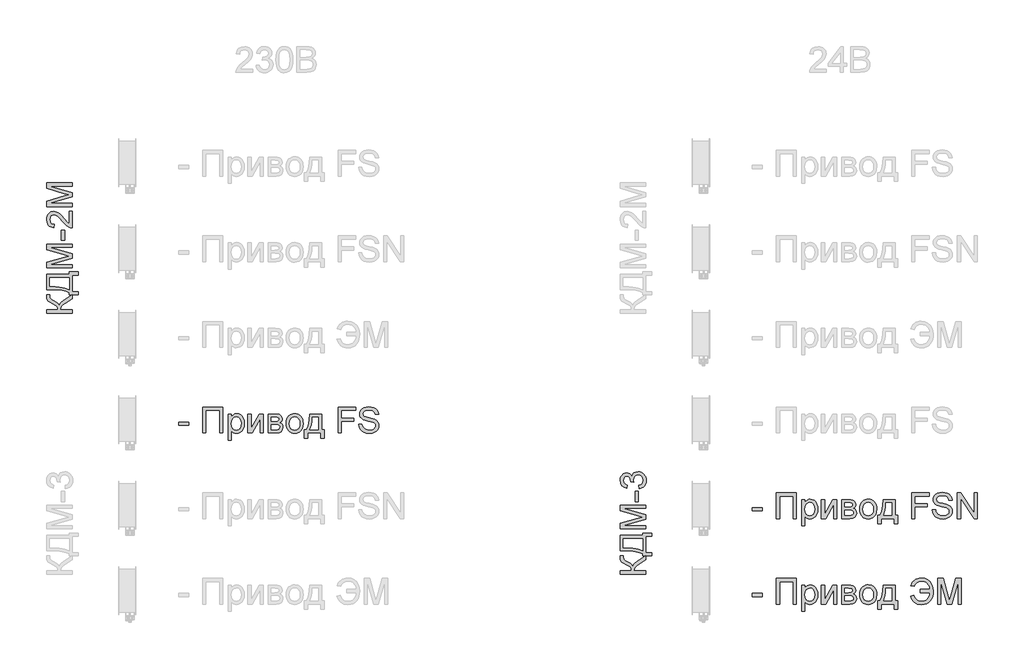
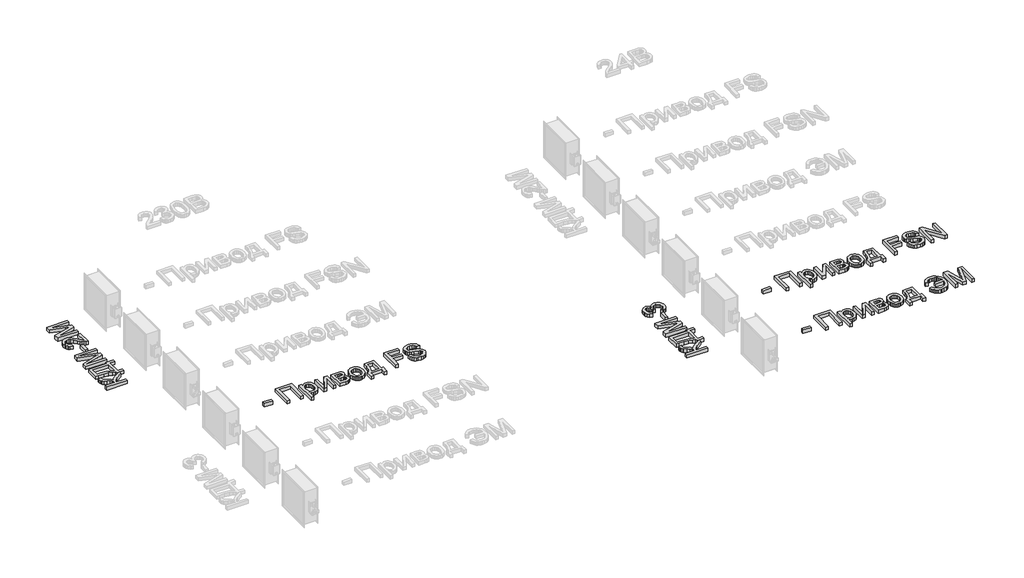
# One storey, part 10 of 23: 5 proxies.
"""IFC4 building model written with IfcOpenShell, lengths in millimetres."""

import ifcopenshell
import ifcopenshell.guid

model = None  # the IFC model being written
_history = None  # IfcOwnerHistory: only IFC2X3 demands one
_inside = {}  # id of a spatial element -> (the spatial element, [elements in it])
_under = {}  # id of a project, library or spatial element -> (it, [spatial elements below it])
_declared = {}  # id of a project -> (the project, [libraries it declares])
_typed = {}  # id of a type object -> (the type object, [elements of that type])
_made_of = {}  # id of a material, layer set ... -> (it, [elements and type objects made of it])


def new_model(schema):
    """Start an empty IFC model of exactly this schema.

    Asked for "IFC4X3", IfcOpenShell would pick the latest addendum, in which some entities
    have other attributes; the version numbers below select the first issue.
    IFC2X3 requires an IfcOwnerHistory on every rooted entity: one is made here for all.
    """
    global model, _history
    if schema == "IFC4X3":
        model = ifcopenshell.file(schema_version=(4, 3, 0, 0))
    else:
        model = ifcopenshell.file(schema=schema)
    _inside.clear()
    _under.clear()
    _declared.clear()
    _typed.clear()
    _made_of.clear()
    _history = None
    if model.schema == "IFC2X3":
        org = make("IfcOrganization", Name="unknown")
        user = make(
            "IfcPersonAndOrganization",
            ThePerson=make("IfcPerson", FamilyName="unknown"),
            TheOrganization=org,
        )
        app = make(
            "IfcApplication",
            ApplicationDeveloper=org,
            Version="unknown",
            ApplicationFullName="unknown",
            ApplicationIdentifier="unknown",
        )
        _history = make(
            "IfcOwnerHistory",
            OwningUser=user,
            OwningApplication=app,
            ChangeAction="ADDED",
            CreationDate=0,
        )
    return model


def make(cls, **values):
    """One entity of the class cls with the attributes given. An attribute that is None is left unset."""
    return model.create_entity(
        cls, **{name: value for name, value in values.items() if value is not None}
    )


def rooted(cls, **values):
    """An entity with a GlobalId (a new one), such as an element, a storey or a relation."""
    return make(cls, GlobalId=ifcopenshell.guid.new(), OwnerHistory=_history, **values)


def si_unit(unit_type, name, prefix=None):
    """IfcSIUnit, for example si_unit("LENGTHUNIT", "METRE", prefix="MILLI")."""
    return make("IfcSIUnit", UnitType=unit_type, Prefix=prefix, Name=name)


def assignment(units):
    """IfcUnitAssignment: the units of a project."""
    return None if units is None else make("IfcUnitAssignment", Units=units)


def point(xyz):
    """IfcCartesianPoint."""
    return None if xyz is None else make("IfcCartesianPoint", Coordinates=xyz)


def direction(xyz):
    """IfcDirection."""
    return None if xyz is None else make("IfcDirection", DirectionRatios=xyz)


def frame(location, z_axis=None, x_axis=None):
    """IfcAxis2Placement3D, a coordinate frame: its origin and axes. An axis left out is left unset."""
    return make(
        "IfcAxis2Placement3D",
        Location=point(location),
        Axis=direction(z_axis),
        RefDirection=direction(x_axis),
    )


def origin():
    """The frame at (0, 0, 0) with its axes left unset."""
    return frame((0.0, 0.0, 0.0))


def origin_with_axes():
    """The frame at (0, 0, 0) with the z axis (0, 0, 1) and the x axis (1, 0, 0) written out."""
    return frame((0.0, 0.0, 0.0), z_axis=(0.0, 0.0, 1.0), x_axis=(1.0, 0.0, 0.0))


def place(relative_to, where):
    """IfcLocalPlacement: puts the frame where relative to a parent placement (None: the world)."""
    return make(
        "IfcLocalPlacement", PlacementRelTo=relative_to, RelativePlacement=where
    )


def context(
    kind, dimensions, precision=None, world=None, true_north=None, identifier=None
):
    """IfcGeometricRepresentationContext, for example the 3D "Model" context."""
    return make(
        "IfcGeometricRepresentationContext",
        ContextIdentifier=identifier,
        ContextType=kind,
        CoordinateSpaceDimension=dimensions,
        Precision=precision,
        WorldCoordinateSystem=world,
        TrueNorth=true_north,
    )


def project(units=None, contexts=None):
    """IfcProject with its units and contexts."""
    return rooted(
        "IfcProject",
        Name="project",
        RepresentationContexts=contexts,
        UnitsInContext=assignment(units),
    )


def spatial(cls, under=None, at=None, **own):
    """A site, building, storey or space (cls), placed at a placement, below another one or the project."""
    s = rooted(cls, ObjectPlacement=at, **own)
    if under is not None:
        _under.setdefault(under.id(), (under, []))[1].append(s)
    return s


def polyline(points):
    """IfcPolyline through the points."""
    return make("IfcPolyline", Points=[point(p) for p in points])


def outline(outer, holes=None, kind="AREA"):
    """IfcArbitraryClosedProfileDef: a profile drawn as a closed curve; with holes, ...WithVoids."""
    if holes is None:
        return make("IfcArbitraryClosedProfileDef", ProfileType=kind, OuterCurve=outer)
    return make(
        "IfcArbitraryProfileDefWithVoids",
        ProfileType=kind,
        OuterCurve=outer,
        InnerCurves=holes,
    )


def extrude(swept, where, along, depth):
    """IfcExtrudedAreaSolid: the profile swept, set in the frame where, extruded along a direction by depth."""
    return make(
        "IfcExtrudedAreaSolid",
        SweptArea=swept,
        Position=where,
        ExtrudedDirection=direction(along),
        Depth=depth,
    )


def shape(context_of_items, identifier, shape_type, items):
    """IfcShapeRepresentation: the items that make up one representation, for example the "Body"."""
    return make(
        "IfcShapeRepresentation",
        ContextOfItems=context_of_items,
        RepresentationIdentifier=identifier,
        RepresentationType=shape_type,
        Items=items,
    )


def made_of(thing, what):
    """Note that an element or type object is made of a material, layer set ...; save() writes the relation."""
    if what is not None:
        _made_of.setdefault(what.id(), (what, []))[1].append(thing)
    return thing


def element(
    cls,
    number,
    at=None,
    inside=None,
    cuts=None,
    type_object=None,
    material=None,
    context=None,
    identifier="Body",
    shape_type=None,
    held_by="IfcProductDefinitionShape",
    body=None,
    shapes=None,
    **own,
):
    """One element of the class cls, such as IfcWall. Its Tag is "e" and its number.

    at: its placement. inside: the storey or other place that contains it. cuts: it is an
    opening in that element (IfcRelVoidsElement). A single representation is given by context,
    identifier, shape_type and body (its items); several are given by shapes. held_by: the class
    of the entity that holds the representations. save() writes the other relations.
    """
    e = rooted(cls, Tag="e%d" % number, ObjectPlacement=at, **own)
    if body is not None:
        shapes = [shape(context, identifier, shape_type, body)]
    if shapes is not None:
        e.Representation = make(held_by, Representations=shapes)
    if inside is not None:
        _inside.setdefault(inside.id(), (inside, []))[1].append(e)
    if cuts is not None:
        rooted(
            "IfcRelVoidsElement", RelatingBuildingElement=cuts, RelatedOpeningElement=e
        )
    if type_object is not None:
        _typed.setdefault(type_object.id(), (type_object, []))[1].append(e)
    return made_of(e, material)


def aggregate(whole, parts):
    """IfcRelAggregates: a whole, such as a stair, and the parts it consists of."""
    return rooted("IfcRelAggregates", RelatingObject=whole, RelatedObjects=parts)


def save(model, path):
    """Write the relations noted so far, then the file.

    IfcRelAggregates (storeys below a building ...), IfcRelContainedInSpatialStructure (elements
    in a storey), IfcRelDefinesByType, IfcRelAssociatesMaterial and IfcRelDeclares: one each for
    every whole, place, type object, material and project.
    """
    for whole, parts in _under.values():
        aggregate(whole, parts)
    for where, things in _inside.values():
        rooted(
            "IfcRelContainedInSpatialStructure",
            RelatedElements=things,
            RelatingStructure=where,
        )
    for kind, things in _typed.values():
        rooted("IfcRelDefinesByType", RelatedObjects=things, RelatingType=kind)
    for what, things in _made_of.values():
        rooted("IfcRelAssociatesMaterial", RelatedObjects=things, RelatingMaterial=what)
    for by, libraries in _declared.values():
        rooted("IfcRelDeclares", RelatingContext=by, RelatedDefinitions=libraries)
    model.write(path)


model = new_model("IFC4")

# Units and contexts
model_context = context("Model", 3, world=origin())
ifc_project = project(units=[si_unit("LENGTHUNIT", "METRE", prefix="MILLI")], contexts=[model_context])

# Site, building, storey
site = spatial("IfcSite", under=ifc_project)
building = spatial("IfcBuilding", under=site)
storey = spatial("IfcBuildingStorey", under=building, Name="Этаж 01", Elevation=0.0)

# Proxies
placement = place(None, origin())
element("IfcBuildingElementProxy", 1, Name="300 мм Arial", ObjectType="300 мм Arial", at=placement, inside=storey, context=model_context, shape_type="SweptSolid", body=[
    extrude(outline(polyline([(2804.7738082, -7434.3206311), (2804.7738082, -7396.6495148), (2922.4960467, -7396.6495148), (2922.4960467, -7434.3206311), (2804.7738082, -7434.3206311)])), origin_with_axes(), (0.0, 0.0, 1.0), 50.0),
    extrude(outline(polyline([(3087.3071805, -7222.4206019), (3322.7516574, -7222.4206019), (3322.7516574, -7523.7895324), (3285.0805411, -7523.7895324), (3285.0805411, -7260.0917182), (3124.9782968, -7260.0917182), (3124.9782968, -7523.7895324), (3087.3071805, -7523.7895324), (3087.3071805, -7222.4206019)])), origin_with_axes(), (0.0, 0.0, 1.0), 50.0),
    extrude(outline(polyline([(3383.9672214, -7608.5495441), (3383.9672214, -7302.4717241), (3421.6383378, -7302.4717241), (3421.6383378, -7339.4070764), (3433.9255964, -7321.1877206), (3447.684383, -7308.173895), (3463.724038, -7300.3655996), (3482.8539017, -7297.7628345), (3508.3297299, -7301.4048663), (3530.6049847, -7312.3309615), (3548.7415671, -7329.8789327), (3561.8013779, -7353.3865922), (3569.6924467, -7381.1432887), (3572.322803, -7411.438371), (3569.3521559, -7443.6556368), (3560.4402145, -7472.469994), (3545.8720875, -7496.4191119), (3525.9328834, -7514.0406595), (3502.7103324, -7524.8839813), (3478.292165, -7528.4984219), (3460.9741201, -7526.0795978), (3445.5138792, -7518.8231254), (3432.2793245, -7507.869439), (3421.6383378, -7494.3589728), (3421.6383378, -7608.5495441), (3383.9672214, -7608.5495441)]), holes=[polyline([(3421.6383378, -7414.8964618), (3425.7126308, -7448.668029), (3437.9355101, -7472.286053), (3455.970925, -7486.1919925), (3477.4828246, -7490.8273056), (3499.3442122, -7486.0264456), (3517.8394795, -7471.6238655), (3530.4486349, -7447.1413187), (3534.6516867, -7412.1005586), (3530.5498024, -7378.5129325), (3518.2441497, -7354.5638146), (3500.236326, -7340.2164168), (3479.027929, -7335.4339508), (3457.7367585, -7340.5199194), (3439.0391561, -7355.7778252), (3425.9885423, -7380.7294215), (3421.6383378, -7414.8964618)])]), origin_with_axes(), (0.0, 0.0, 1.0), 50.0),
    extrude(outline(polyline([(3614.7028088, -7302.4717241), (3652.3739251, -7302.4717241), (3652.3739251, -7471.2559835), (3744.9330351, -7302.4717241), (3793.6406113, -7302.4717241), (3793.6406113, -7523.7895324), (3755.969495, -7523.7895324), (3755.969495, -7356.0353426), (3663.9989962, -7523.7895324), (3614.7028088, -7523.7895324), (3614.7028088, -7302.4717241)])), origin_with_axes(), (0.0, 0.0, 1.0), 50.0),
    extrude(outline(polyline([(3850.1472857, -7302.4717241), (3933.1414638, -7302.4717241), (3959.8221055, -7303.7317199), (3978.6484666, -7307.5117074), (3992.4992238, -7314.6486181), (4004.2530535, -7325.9793836), (4012.2820781, -7340.7406486), (4014.9584196, -7358.1690581), (4013.3397388, -7372.2129533), (4008.4836965, -7384.325468), (4000.3718985, -7394.5617845), (3988.9859507, -7402.9770852), (4002.9286783, -7410.8037746), (4014.296232, -7423.3945359), (4021.856207, -7439.7560876), (4024.3761986, -7458.8951484), (4017.993446, -7487.6083381), (4002.8183137, -7507.8234538), (3978.7956194, -7519.7980127), (3945.8701809, -7523.7895324), (3850.1472857, -7523.7895324), (3850.1472857, -7302.4717241)]), holes=[polyline([(3887.818402, -7486.1184161), (3934.0243806, -7486.1184161), (3959.2059032, -7484.4169618), (3975.0064349, -7479.3125992), (3983.4861149, -7470.0327758), (3986.7050823, -7455.8049397), (3985.0955986, -7446.3779635), (3980.2671474, -7437.6683573), (3972.8543252, -7430.8533433), (3963.4917284, -7427.110144), (3930.3455607, -7424.9028521), (3887.818402, -7424.9028521), (3887.818402, -7486.1184161)]), polyline([(3887.818402, -7387.2317358), (3925.04806, -7387.2317358), (3955.7662065, -7385.3187494), (3970.7022156, -7377.6668039), (3975.6410313, -7371.3392336), (3977.2873033, -7363.8344409), (3974.3994296, -7352.5956459), (3965.7358086, -7345.3667647), (3950.0824297, -7341.4488215), (3926.2252823, -7340.1428404), (3887.818402, -7340.1428404), (3887.818402, -7387.2317358)])]), origin_with_axes(), (0.0, 0.0, 1.0), 50.0),
    extrude(outline(polyline([(4062.047315, -7413.1306282), (4064.0844615, -7384.4680223), (4070.1959011, -7359.7693448), (4080.3816339, -7339.0345959), (4094.6416597, -7322.2637754), (4108.9982546, -7311.5446138), (4124.8447715, -7303.8880698), (4142.1812106, -7299.2941433), (4161.0075717, -7297.7628345), (4181.7906051, -7299.6275364), (4200.5824773, -7305.221642), (4217.3831882, -7314.5451513), (4232.1927377, -7327.5980643), (4244.2799605, -7343.9389227), (4252.9136911, -7363.126268), (4258.0939294, -7385.1601003), (4259.8206756, -7410.0404195), (4256.767255, -7448.0978119), (4247.6069933, -7477.068519), (4232.606605, -7498.7643596), (4212.0328044, -7514.9971527), (4187.5962429, -7525.1231046), (4161.0075717, -7528.4984219), (4139.9210355, -7526.6406178), (4120.9544194, -7521.0672056), (4104.1077233, -7511.7781852), (4089.3809472, -7498.7735567), (4077.4224831, -7482.2740492), (4068.880723, -7462.500392), (4063.755667, -7439.452585), (4062.047315, -7413.1306282)]), holes=[polyline([(4099.7184313, -7413.0570518), (4104.0778329, -7447.1505157), (4117.1560378, -7471.4399245), (4136.8377246, -7485.9804603), (4161.0075717, -7490.8273056), (4185.0670541, -7485.9528692), (4204.7119527, -7471.3295599), (4217.7901576, -7446.7182544), (4222.1495593, -7411.8798294), (4217.7625665, -7378.7796469), (4204.6015881, -7354.821332), (4184.9290984, -7340.2807961), (4161.0075717, -7335.4339508), (4136.8377246, -7340.262402), (4117.1560378, -7354.7477556), (4104.0778329, -7378.981982), (4099.7184313, -7413.0570518)])]), origin_with_axes(), (0.0, 0.0, 1.0), 50.0),
    extrude(outline(polyline([(4335.1629082, -7302.4717241), (4476.4295943, -7302.4717241), (4476.4295943, -7486.1184161), (4504.6829316, -7486.1184161), (4504.6829316, -7585.0050964), (4467.0118152, -7585.0050964), (4467.0118152, -7523.7895324), (4311.6184605, -7523.7895324), (4311.6184605, -7585.0050964), (4273.9473442, -7585.0050964), (4273.9473442, -7486.1184161), (4297.4917919, -7486.1184161), (4314.6075017, -7455.1887373), (4326.5912577, -7414.2710624), (4333.4430598, -7363.3653913), (4335.1629082, -7302.4717241)]), holes=[polyline([(4368.1251349, -7340.1428404), (4365.0349262, -7386.2660455), (4359.2959671, -7425.9697099), (4350.9082576, -7459.2538334), (4339.8717977, -7486.1184161), (4438.758478, -7486.1184161), (4438.758478, -7340.1428404), (4368.1251349, -7340.1428404)])]), origin_with_axes(), (0.0, 0.0, 1.0), 50.0),
    extrude(outline(polyline([(4669.4940654, -7523.7895324), (4669.4940654, -7222.4206019), (4871.9763155, -7222.4206019), (4871.9763155, -7260.0917182), (4707.1651817, -7260.0917182), (4707.1651817, -7349.5606195), (4848.4318678, -7349.5606195), (4848.4318678, -7387.2317358), (4707.1651817, -7387.2317358), (4707.1651817, -7523.7895324), (4669.4940654, -7523.7895324)])), origin_with_axes(), (0.0, 0.0, 1.0), 50.0),
    extrude(outline(polyline([(4909.6474318, -7420.1939625), (4947.3185481, -7420.1939625), (4951.6411616, -7441.0988569), (4959.458654, -7457.901867), (4971.6539421, -7471.2375894), (4989.1099428, -7481.7406203), (5010.4470985, -7488.5556343), (5034.2858518, -7490.8273056), (5055.2735196, -7489.1074573), (5073.6492253, -7483.9479123), (5088.539249, -7475.780932), (5099.0698712, -7465.0387777), (5105.3330621, -7452.7055339), (5107.4207924, -7439.7652847), (5105.857294, -7427.1561293), (5101.1667985, -7416.2576252), (5091.6386549, -7406.9594078), (5075.5622117, -7399.1511124), (5020.7110062, -7384.7669264), (4984.7045559, -7375.2479798), (4961.665946, -7366.1888856), (4942.9131613, -7353.5153509), (4929.6234242, -7338.1562776), (4921.7047642, -7320.4427595), (4919.0652109, -7300.7058905), (4922.3301636, -7278.6421678), (4932.1250217, -7258.0683673), (4948.1922679, -7240.6307607), (4970.2743846, -7227.97562), (4996.7802824, -7220.2776893), (5026.1188715, -7217.7117124), (5057.9038759, -7220.3972509), (5085.7157547, -7228.4538666), (5108.5612266, -7241.7160126), (5125.4470102, -7260.0181418), (5136.1339822, -7282.2198202), (5140.3830192, -7307.1806136), (5102.7119029, -7307.1806136), (5095.7957214, -7284.7030237), (5081.3747472, -7268.4794277), (5058.841975, -7258.6569784), (5027.5903995, -7255.3828287), (4995.60306, -7258.6201902), (4973.658899, -7268.3322749), (4960.9669702, -7282.6244904), (4956.7363272, -7299.6022445), (4959.7345655, -7314.078401), (4968.7292803, -7325.7218662), (4989.9928596, -7336.1329266), (5030.2391499, -7346.7647163), (5071.7730271, -7356.8630771), (5096.8993674, -7365.6738508), (5118.3744789, -7379.340667), (5133.3564731, -7396.2080564), (5142.1580498, -7416.0920783), (5145.0919088, -7438.8087915), (5141.7165914, -7462.0313424), (5131.5906395, -7483.8743359), (5115.1279202, -7502.6731058), (5092.7423008, -7516.7629863), (5065.8225358, -7525.564563), (5035.7573798, -7528.4984219), (4998.8496186, -7525.3346367), (4968.4717629, -7515.8432813), (4944.2743246, -7499.9875673), (4925.907816, -7477.7307066), (4914.1171981, -7450.6178035), (4909.6474318, -7420.1939625)])), origin_with_axes(), (0.0, 0.0, 1.0), 50.0),
])
element("IfcBuildingElementProxy", 2, Name="300 мм Arial", ObjectType="300 мм Arial", at=placement, inside=storey, context=model_context, shape_type="SweptSolid", body=[
    extrude(outline(polyline([(1262.355345, -6122.4984014), (1262.355345, -6084.8272851), (1394.2042521, -6084.8272851), (1391.7118516, -6059.3238658), (1384.23465, -6042.7047967), (1366.6406936, -6029.2679068), (1333.7980285, -6013.3110252), (1291.6755401, -5992.5256925), (1280.2620012, -5982.5009082), (1270.8166309, -5968.9812448), (1264.4706665, -5952.9323928), (1262.355345, -5935.3200423), (1262.7968034, -5910.5983722), (1300.4679197, -5910.5983722), (1300.2471905, -5918.9125053), (1300.0264613, -5927.2266384), (1302.2889356, -5944.4803039), (1309.0763584, -5956.657198), (1323.3317857, -5967.1418349), (1347.8511207, -5979.0244233), (1378.3853263, -5993.6017474), (1395.0871689, -6005.6958679), (1410.6853655, -6031.705125), (1416.8933742, -6017.1140054), (1427.7183019, -6002.6240533), (1463.2189144, -5973.9476518), (1563.7242755, -5910.5983722), (1563.7242755, -5954.3027532), (1478.817111, -6007.8663717), (1451.5846463, -6028.5505369), (1434.4873306, -6045.5742762), (1425.4650246, -6062.9842916), (1422.4575893, -6084.8272851), (1563.7242755, -6084.8272851), (1563.7242755, -6122.4984014), (1262.355345, -6122.4984014)])), origin_with_axes(), (0.0, 0.0, 1.0), 50.0),
    extrude(outline(polyline([(1262.355345, -5849.3828082), (1262.355345, -5670.4450057), (1526.0531592, -5670.4450057), (1526.0531592, -5642.1916685), (1634.3576186, -5642.1916685), (1634.3576186, -5679.8627848), (1563.7242755, -5679.8627848), (1563.7242755, -5872.9272559), (1634.3576186, -5872.9272559), (1634.3576186, -5910.5983722), (1563.7242755, -5910.5983722), (1526.0531592, -5910.5983722), (1526.0531592, -5887.0539245), (1491.8815204, -5870.5728111), (1443.8131392, -5858.8005873), (1381.8480156, -5851.737253), (1305.9861497, -5849.3828082), (1262.355345, -5849.3828082)]), holes=[polyline([(1300.0264613, -5708.116122), (1300.0264613, -5811.7116919), (1315.1831995, -5811.7116919), (1418.4108874, -5819.3636374), (1478.0629529, -5830.6944028), (1526.0531592, -5849.3828082), (1526.0531592, -5708.116122), (1300.0264613, -5708.116122)])]), origin_with_axes(), (0.0, 0.0, 1.0), 50.0),
    extrude(outline(polyline([(1563.7242755, -5595.1027731), (1262.355345, -5595.1027731), (1262.355345, -5530.2819656), (1474.7704091, -5468.6249432), (1519.1369777, -5456.1905318), (1471.0915891, -5442.7260507), (1262.355345, -5382.0990979), (1262.355345, -5317.2782904), (1563.7242755, -5317.2782904), (1563.7242755, -5354.9494067), (1300.0264613, -5354.9494067), (1563.7242755, -5430.6595213), (1563.7242755, -5481.7215422), (1300.0264613, -5557.4316568), (1563.7242755, -5557.4316568), (1563.7242755, -5595.1027731)])), origin_with_axes(), (0.0, 0.0, 1.0), 50.0),
    extrude(outline(polyline([(1474.2553743, -5274.8982845), (1436.584258, -5274.8982845), (1436.584258, -5157.1760461), (1474.2553743, -5157.1760461), (1474.2553743, -5274.8982845)])), origin_with_axes(), (0.0, 0.0, 1.0), 50.0),
    extrude(outline(polyline([(1526.0531592, -4931.1493482), (1563.7242755, -4931.1493482), (1563.7242755, -5128.9227088), (1537.7518066, -5124.8760069), (1517.4539175, -5115.5869865), (1497.7630338, -5101.9937468), (1477.152445, -5082.3304542), (1454.0954409, -5054.831275), (1417.9878231, -5014.1803145), (1391.3347725, -4989.7897383), (1369.7033112, -4977.5944501), (1348.6604611, -4973.5293541), (1329.7973118, -4977.3645239), (1314.1163418, -4988.8700333), (1303.5489314, -5006.5559602), (1300.0264613, -5028.9323826), (1303.466158, -5052.430845), (1313.785248, -5070.686989), (1330.1743908, -5082.4684099), (1351.8242463, -5086.542703), (1347.1153567, -5124.2138193), (1310.6766451, -5115.0811488), (1296.1407078, -5106.5347902), (1284.0603828, -5095.3350827), (1274.5644288, -5081.7395437), (1267.7816045, -5066.0056906), (1262.355345, -5028.1230422), (1263.8636612, -5007.9332184), (1268.3886098, -4989.9644822), (1275.9301907, -4974.2168336), (1286.4884039, -4960.6902724), (1299.2815003, -4949.8262573), (1313.5277306, -4942.0662464), (1329.2270947, -4937.4102399), (1346.3795927, -4935.8582378), (1364.3966134, -4937.5321009), (1382.1009345, -4942.5536901), (1400.1087581, -4951.4656314), (1419.0362868, -4964.8105508), (1441.6334383, -4986.0833272), (1470.6501307, -5018.7788395), (1506.8865072, -5062.1153385), (1526.0531592, -5079.1114867), (1526.0531592, -4931.1493482)])), origin_with_axes(), (0.0, 0.0, 1.0), 50.0),
    extrude(outline(polyline([(1563.7242755, -4879.3515633), (1262.355345, -4879.3515633), (1262.355345, -4814.5307558), (1474.7704091, -4752.8737334), (1519.1369777, -4740.4393219), (1471.0915891, -4726.9748409), (1262.355345, -4666.3478881), (1262.355345, -4601.5270806), (1563.7242755, -4601.5270806), (1563.7242755, -4639.1981969), (1300.0264613, -4639.1981969), (1563.7242755, -4714.9083115), (1563.7242755, -4765.9703324), (1300.0264613, -4841.680447), (1563.7242755, -4841.680447), (1563.7242755, -4879.3515633)])), origin_with_axes(), (0.0, 0.0, 1.0), 50.0),
])
element("IfcBuildingElementProxy", 3, Name="300 мм Arial", ObjectType="300 мм Arial", at=placement, inside=storey, context=model_context, shape_type="SweptSolid", body=[
    extrude(outline(polyline([(9504.7738082, -8434.3206311), (9504.7738082, -8396.6495148), (9622.4960467, -8396.6495148), (9622.4960467, -8434.3206311), (9504.7738082, -8434.3206311)])), origin_with_axes(), (0.0, 0.0, 1.0), 50.0),
    extrude(outline(polyline([(9787.3071805, -8222.4206019), (10022.7516574, -8222.4206019), (10022.7516574, -8523.7895324), (9985.0805411, -8523.7895324), (9985.0805411, -8260.0917182), (9824.9782968, -8260.0917182), (9824.9782968, -8523.7895324), (9787.3071805, -8523.7895324), (9787.3071805, -8222.4206019)])), origin_with_axes(), (0.0, 0.0, 1.0), 50.0),
    extrude(outline(polyline([(10083.9672214, -8608.5495441), (10083.9672214, -8302.4717241), (10121.6383378, -8302.4717241), (10121.6383378, -8339.4070764), (10133.9255964, -8321.1877206), (10147.684383, -8308.173895), (10163.724038, -8300.3655996), (10182.8539017, -8297.7628345), (10208.3297299, -8301.4048663), (10230.6049847, -8312.3309615), (10248.7415671, -8329.8789327), (10261.8013779, -8353.3865922), (10269.6924467, -8381.1432887), (10272.322803, -8411.438371), (10269.3521559, -8443.6556368), (10260.4402145, -8472.469994), (10245.8720875, -8496.4191119), (10225.9328834, -8514.0406595), (10202.7103324, -8524.8839813), (10178.292165, -8528.4984219), (10160.9741201, -8526.0795978), (10145.5138792, -8518.8231254), (10132.2793245, -8507.869439), (10121.6383378, -8494.3589728), (10121.6383378, -8608.5495441), (10083.9672214, -8608.5495441)]), holes=[polyline([(10121.6383378, -8414.8964618), (10125.7126308, -8448.668029), (10137.9355101, -8472.286053), (10155.970925, -8486.1919925), (10177.4828246, -8490.8273056), (10199.3442122, -8486.0264456), (10217.8394795, -8471.6238655), (10230.4486349, -8447.1413187), (10234.6516867, -8412.1005586), (10230.5498024, -8378.5129325), (10218.2441497, -8354.5638146), (10200.236326, -8340.2164168), (10179.027929, -8335.4339508), (10157.7367585, -8340.5199194), (10139.0391561, -8355.7778252), (10125.9885423, -8380.7294215), (10121.6383378, -8414.8964618)])]), origin_with_axes(), (0.0, 0.0, 1.0), 50.0),
    extrude(outline(polyline([(10314.7028088, -8302.4717241), (10352.3739251, -8302.4717241), (10352.3739251, -8471.2559835), (10444.9330351, -8302.4717241), (10493.6406113, -8302.4717241), (10493.6406113, -8523.7895324), (10455.969495, -8523.7895324), (10455.969495, -8356.0353426), (10363.9989962, -8523.7895324), (10314.7028088, -8523.7895324), (10314.7028088, -8302.4717241)])), origin_with_axes(), (0.0, 0.0, 1.0), 50.0),
    extrude(outline(polyline([(10550.1472857, -8302.4717241), (10633.1414638, -8302.4717241), (10659.8221055, -8303.7317199), (10678.6484666, -8307.5117074), (10692.4992238, -8314.6486181), (10704.2530535, -8325.9793836), (10712.2820781, -8340.7406486), (10714.9584196, -8358.1690581), (10713.3397388, -8372.2129533), (10708.4836965, -8384.325468), (10700.3718985, -8394.5617845), (10688.9859507, -8402.9770852), (10702.9286783, -8410.8037746), (10714.296232, -8423.3945359), (10721.856207, -8439.7560876), (10724.3761986, -8458.8951484), (10717.993446, -8487.6083381), (10702.8183137, -8507.8234538), (10678.7956194, -8519.7980127), (10645.8701809, -8523.7895324), (10550.1472857, -8523.7895324), (10550.1472857, -8302.4717241)]), holes=[polyline([(10587.818402, -8486.1184161), (10634.0243806, -8486.1184161), (10659.2059032, -8484.4169618), (10675.0064349, -8479.3125992), (10683.4861149, -8470.0327758), (10686.7050823, -8455.8049397), (10685.0955986, -8446.3779635), (10680.2671474, -8437.6683573), (10672.8543252, -8430.8533433), (10663.4917284, -8427.110144), (10630.3455607, -8424.9028521), (10587.818402, -8424.9028521), (10587.818402, -8486.1184161)]), polyline([(10587.818402, -8387.2317358), (10625.04806, -8387.2317358), (10655.7662065, -8385.3187494), (10670.7022156, -8377.6668039), (10675.6410313, -8371.3392336), (10677.2873033, -8363.8344409), (10674.3994296, -8352.5956459), (10665.7358086, -8345.3667647), (10650.0824297, -8341.4488215), (10626.2252823, -8340.1428404), (10587.818402, -8340.1428404), (10587.818402, -8387.2317358)])]), origin_with_axes(), (0.0, 0.0, 1.0), 50.0),
    extrude(outline(polyline([(10762.047315, -8413.1306282), (10764.0844615, -8384.4680223), (10770.1959011, -8359.7693448), (10780.3816339, -8339.0345959), (10794.6416597, -8322.2637754), (10808.9982546, -8311.5446138), (10824.8447715, -8303.8880698), (10842.1812106, -8299.2941433), (10861.0075717, -8297.7628345), (10881.7906051, -8299.6275364), (10900.5824773, -8305.221642), (10917.3831882, -8314.5451513), (10932.1927377, -8327.5980643), (10944.2799605, -8343.9389227), (10952.9136911, -8363.126268), (10958.0939294, -8385.1601003), (10959.8206756, -8410.0404195), (10956.767255, -8448.0978119), (10947.6069933, -8477.068519), (10932.606605, -8498.7643596), (10912.0328044, -8514.9971527), (10887.5962429, -8525.1231046), (10861.0075717, -8528.4984219), (10839.9210355, -8526.6406178), (10820.9544194, -8521.0672056), (10804.1077233, -8511.7781852), (10789.3809472, -8498.7735567), (10777.4224831, -8482.2740492), (10768.880723, -8462.500392), (10763.755667, -8439.452585), (10762.047315, -8413.1306282)]), holes=[polyline([(10799.7184313, -8413.0570518), (10804.0778329, -8447.1505157), (10817.1560378, -8471.4399245), (10836.8377246, -8485.9804603), (10861.0075717, -8490.8273056), (10885.0670541, -8485.9528692), (10904.7119527, -8471.3295599), (10917.7901576, -8446.7182544), (10922.1495593, -8411.8798294), (10917.7625665, -8378.7796469), (10904.6015881, -8354.821332), (10884.9290984, -8340.2807961), (10861.0075717, -8335.4339508), (10836.8377246, -8340.262402), (10817.1560378, -8354.7477556), (10804.0778329, -8378.981982), (10799.7184313, -8413.0570518)])]), origin_with_axes(), (0.0, 0.0, 1.0), 50.0),
    extrude(outline(polyline([(11035.1629082, -8302.4717241), (11176.4295943, -8302.4717241), (11176.4295943, -8486.1184161), (11204.6829316, -8486.1184161), (11204.6829316, -8585.0050964), (11167.0118152, -8585.0050964), (11167.0118152, -8523.7895324), (11011.6184605, -8523.7895324), (11011.6184605, -8585.0050964), (10973.9473442, -8585.0050964), (10973.9473442, -8486.1184161), (10997.4917919, -8486.1184161), (11014.6075017, -8455.1887373), (11026.5912577, -8414.2710624), (11033.4430598, -8363.3653913), (11035.1629082, -8302.4717241)]), holes=[polyline([(11068.1251349, -8340.1428404), (11065.0349262, -8386.2660455), (11059.2959671, -8425.9697099), (11050.9082576, -8459.2538334), (11039.8717977, -8486.1184161), (11138.758478, -8486.1184161), (11138.758478, -8340.1428404), (11068.1251349, -8340.1428404)])]), origin_with_axes(), (0.0, 0.0, 1.0), 50.0),
    extrude(outline(polyline([(11369.4940654, -8523.7895324), (11369.4940654, -8222.4206019), (11571.9763155, -8222.4206019), (11571.9763155, -8260.0917182), (11407.1651817, -8260.0917182), (11407.1651817, -8349.5606195), (11548.4318678, -8349.5606195), (11548.4318678, -8387.2317358), (11407.1651817, -8387.2317358), (11407.1651817, -8523.7895324), (11369.4940654, -8523.7895324)])), origin_with_axes(), (0.0, 0.0, 1.0), 50.0),
    extrude(outline(polyline([(11609.6474318, -8420.1939625), (11647.3185481, -8420.1939625), (11651.6411616, -8441.0988569), (11659.458654, -8457.901867), (11671.6539421, -8471.2375894), (11689.1099428, -8481.7406203), (11710.4470985, -8488.5556343), (11734.2858518, -8490.8273056), (11755.2735196, -8489.1074573), (11773.6492253, -8483.9479123), (11788.539249, -8475.780932), (11799.0698712, -8465.0387777), (11805.3330621, -8452.7055339), (11807.4207924, -8439.7652847), (11805.857294, -8427.1561293), (11801.1667985, -8416.2576252), (11791.6386549, -8406.9594078), (11775.5622117, -8399.1511124), (11720.7110062, -8384.7669264), (11684.7045559, -8375.2479798), (11661.665946, -8366.1888856), (11642.9131613, -8353.5153509), (11629.6234242, -8338.1562776), (11621.7047642, -8320.4427595), (11619.0652109, -8300.7058905), (11622.3301636, -8278.6421678), (11632.1250217, -8258.0683673), (11648.1922679, -8240.6307607), (11670.2743846, -8227.97562), (11696.7802824, -8220.2776893), (11726.1188715, -8217.7117124), (11757.9038759, -8220.3972509), (11785.7157547, -8228.4538666), (11808.5612266, -8241.7160126), (11825.4470102, -8260.0181418), (11836.1339822, -8282.2198202), (11840.3830192, -8307.1806136), (11802.7119029, -8307.1806136), (11795.7957214, -8284.7030237), (11781.3747472, -8268.4794277), (11758.841975, -8258.6569784), (11727.5903995, -8255.3828287), (11695.60306, -8258.6201902), (11673.658899, -8268.3322749), (11660.9669702, -8282.6244904), (11656.7363272, -8299.6022445), (11659.7345655, -8314.078401), (11668.7292803, -8325.7218662), (11689.9928596, -8336.1329266), (11730.2391499, -8346.7647163), (11771.7730271, -8356.8630771), (11796.8993674, -8365.6738508), (11818.3744789, -8379.340667), (11833.3564731, -8396.2080564), (11842.1580498, -8416.0920783), (11845.0919088, -8438.8087915), (11841.7165914, -8462.0313424), (11831.5906395, -8483.8743359), (11815.1279202, -8502.6731058), (11792.7423008, -8516.7629863), (11765.8225358, -8525.564563), (11735.7573798, -8528.4984219), (11698.8496186, -8525.3346367), (11668.4717629, -8515.8432813), (11644.2743246, -8499.9875673), (11625.907816, -8477.7307066), (11614.1171981, -8450.6178035), (11609.6474318, -8420.1939625)])), origin_with_axes(), (0.0, 0.0, 1.0), 50.0),
    extrude(outline(polyline([(11901.5985832, -8523.7895324), (11901.5985832, -8222.4206019), (11941.9184499, -8222.4206019), (12099.3719438, -8461.1760168), (12099.3719438, -8222.4206019), (12137.0430601, -8222.4206019), (12137.0430601, -8523.7895324), (12096.7231935, -8523.7895324), (11939.2696995, -8284.9605411), (11939.2696995, -8523.7895324), (11901.5985832, -8523.7895324)])), origin_with_axes(), (0.0, 0.0, 1.0), 50.0),
])
element("IfcBuildingElementProxy", 4, Name="300 мм Arial", ObjectType="300 мм Arial", at=placement, inside=storey, context=model_context, shape_type="SweptSolid", body=[
    extrude(outline(polyline([(9504.7738082, -9434.3206311), (9504.7738082, -9396.6495148), (9622.4960467, -9396.6495148), (9622.4960467, -9434.3206311), (9504.7738082, -9434.3206311)])), origin_with_axes(), (0.0, 0.0, 1.0), 50.0),
    extrude(outline(polyline([(9787.3071805, -9222.4206019), (10022.7516574, -9222.4206019), (10022.7516574, -9523.7895324), (9985.0805411, -9523.7895324), (9985.0805411, -9260.0917182), (9824.9782968, -9260.0917182), (9824.9782968, -9523.7895324), (9787.3071805, -9523.7895324), (9787.3071805, -9222.4206019)])), origin_with_axes(), (0.0, 0.0, 1.0), 50.0),
    extrude(outline(polyline([(10083.9672214, -9608.5495441), (10083.9672214, -9302.4717241), (10121.6383378, -9302.4717241), (10121.6383378, -9339.4070764), (10133.9255964, -9321.1877206), (10147.684383, -9308.173895), (10163.724038, -9300.3655996), (10182.8539017, -9297.7628345), (10208.3297299, -9301.4048663), (10230.6049847, -9312.3309615), (10248.7415671, -9329.8789327), (10261.8013779, -9353.3865922), (10269.6924467, -9381.1432887), (10272.322803, -9411.438371), (10269.3521559, -9443.6556368), (10260.4402145, -9472.469994), (10245.8720875, -9496.4191119), (10225.9328834, -9514.0406595), (10202.7103324, -9524.8839813), (10178.292165, -9528.4984219), (10160.9741201, -9526.0795978), (10145.5138792, -9518.8231254), (10132.2793245, -9507.869439), (10121.6383378, -9494.3589728), (10121.6383378, -9608.5495441), (10083.9672214, -9608.5495441)]), holes=[polyline([(10121.6383378, -9414.8964618), (10125.7126308, -9448.668029), (10137.9355101, -9472.286053), (10155.970925, -9486.1919925), (10177.4828246, -9490.8273056), (10199.3442122, -9486.0264456), (10217.8394795, -9471.6238655), (10230.4486349, -9447.1413187), (10234.6516867, -9412.1005586), (10230.5498024, -9378.5129325), (10218.2441497, -9354.5638146), (10200.236326, -9340.2164168), (10179.027929, -9335.4339508), (10157.7367585, -9340.5199194), (10139.0391561, -9355.7778252), (10125.9885423, -9380.7294215), (10121.6383378, -9414.8964618)])]), origin_with_axes(), (0.0, 0.0, 1.0), 50.0),
    extrude(outline(polyline([(10314.7028088, -9302.4717241), (10352.3739251, -9302.4717241), (10352.3739251, -9471.2559835), (10444.9330351, -9302.4717241), (10493.6406113, -9302.4717241), (10493.6406113, -9523.7895324), (10455.969495, -9523.7895324), (10455.969495, -9356.0353426), (10363.9989962, -9523.7895324), (10314.7028088, -9523.7895324), (10314.7028088, -9302.4717241)])), origin_with_axes(), (0.0, 0.0, 1.0), 50.0),
    extrude(outline(polyline([(10550.1472857, -9302.4717241), (10633.1414638, -9302.4717241), (10659.8221055, -9303.7317199), (10678.6484666, -9307.5117074), (10692.4992238, -9314.6486181), (10704.2530535, -9325.9793836), (10712.2820781, -9340.7406486), (10714.9584196, -9358.1690581), (10713.3397388, -9372.2129533), (10708.4836965, -9384.325468), (10700.3718985, -9394.5617845), (10688.9859507, -9402.9770852), (10702.9286783, -9410.8037746), (10714.296232, -9423.3945359), (10721.856207, -9439.7560876), (10724.3761986, -9458.8951484), (10717.993446, -9487.6083381), (10702.8183137, -9507.8234538), (10678.7956194, -9519.7980127), (10645.8701809, -9523.7895324), (10550.1472857, -9523.7895324), (10550.1472857, -9302.4717241)]), holes=[polyline([(10587.818402, -9486.1184161), (10634.0243806, -9486.1184161), (10659.2059032, -9484.4169618), (10675.0064349, -9479.3125992), (10683.4861149, -9470.0327758), (10686.7050823, -9455.8049397), (10685.0955986, -9446.3779635), (10680.2671474, -9437.6683573), (10672.8543252, -9430.8533433), (10663.4917284, -9427.110144), (10630.3455607, -9424.9028521), (10587.818402, -9424.9028521), (10587.818402, -9486.1184161)]), polyline([(10587.818402, -9387.2317358), (10625.04806, -9387.2317358), (10655.7662065, -9385.3187494), (10670.7022156, -9377.6668039), (10675.6410313, -9371.3392336), (10677.2873033, -9363.8344409), (10674.3994296, -9352.5956459), (10665.7358086, -9345.3667647), (10650.0824297, -9341.4488215), (10626.2252823, -9340.1428404), (10587.818402, -9340.1428404), (10587.818402, -9387.2317358)])]), origin_with_axes(), (0.0, 0.0, 1.0), 50.0),
    extrude(outline(polyline([(10762.047315, -9413.1306282), (10764.0844615, -9384.4680223), (10770.1959011, -9359.7693448), (10780.3816339, -9339.0345959), (10794.6416597, -9322.2637754), (10808.9982546, -9311.5446138), (10824.8447715, -9303.8880698), (10842.1812106, -9299.2941433), (10861.0075717, -9297.7628345), (10881.7906051, -9299.6275364), (10900.5824773, -9305.221642), (10917.3831882, -9314.5451513), (10932.1927377, -9327.5980643), (10944.2799605, -9343.9389227), (10952.9136911, -9363.126268), (10958.0939294, -9385.1601003), (10959.8206756, -9410.0404195), (10956.767255, -9448.0978119), (10947.6069933, -9477.068519), (10932.606605, -9498.7643596), (10912.0328044, -9514.9971527), (10887.5962429, -9525.1231046), (10861.0075717, -9528.4984219), (10839.9210355, -9526.6406178), (10820.9544194, -9521.0672056), (10804.1077233, -9511.7781852), (10789.3809472, -9498.7735567), (10777.4224831, -9482.2740492), (10768.880723, -9462.500392), (10763.755667, -9439.452585), (10762.047315, -9413.1306282)]), holes=[polyline([(10799.7184313, -9413.0570518), (10804.0778329, -9447.1505157), (10817.1560378, -9471.4399245), (10836.8377246, -9485.9804603), (10861.0075717, -9490.8273056), (10885.0670541, -9485.9528692), (10904.7119527, -9471.3295599), (10917.7901576, -9446.7182544), (10922.1495593, -9411.8798294), (10917.7625665, -9378.7796469), (10904.6015881, -9354.821332), (10884.9290984, -9340.2807961), (10861.0075717, -9335.4339508), (10836.8377246, -9340.262402), (10817.1560378, -9354.7477556), (10804.0778329, -9378.981982), (10799.7184313, -9413.0570518)])]), origin_with_axes(), (0.0, 0.0, 1.0), 50.0),
    extrude(outline(polyline([(11035.1629082, -9302.4717241), (11176.4295943, -9302.4717241), (11176.4295943, -9486.1184161), (11204.6829316, -9486.1184161), (11204.6829316, -9585.0050964), (11167.0118152, -9585.0050964), (11167.0118152, -9523.7895324), (11011.6184605, -9523.7895324), (11011.6184605, -9585.0050964), (10973.9473442, -9585.0050964), (10973.9473442, -9486.1184161), (10997.4917919, -9486.1184161), (11014.6075017, -9455.1887373), (11026.5912577, -9414.2710624), (11033.4430598, -9363.3653913), (11035.1629082, -9302.4717241)]), holes=[polyline([(11068.1251349, -9340.1428404), (11065.0349262, -9386.2660455), (11059.2959671, -9425.9697099), (11050.9082576, -9459.2538334), (11039.8717977, -9486.1184161), (11138.758478, -9486.1184161), (11138.758478, -9340.1428404), (11068.1251349, -9340.1428404)])]), origin_with_axes(), (0.0, 0.0, 1.0), 50.0),
    extrude(outline(polyline([(11468.3807457, -9349.5606195), (11581.3940946, -9349.5606195), (11578.6947605, -9329.0121108), (11573.0983556, -9310.7030837), (11564.6048801, -9294.6335383), (11553.2143338, -9280.8034746), (11539.1520445, -9269.681942), (11522.64334, -9261.7379902), (11503.6882202, -9256.9716191), (11482.2866851, -9255.3828287), (11451.8674426, -9259.2088014), (11427.6378147, -9270.6867197), (11409.5978014, -9289.8165834), (11397.7474026, -9316.5983927), (11360.0762863, -9307.1806136), (11366.8637091, -9287.2873947), (11376.1895177, -9269.6934383), (11388.053712, -9254.3987444), (11402.4562922, -9241.4033129), (11419.0799598, -9231.0382377), (11437.6074168, -9223.6346125), (11458.0386631, -9219.1924374), (11480.3736987, -9217.7117124), (11521.4477235, -9223.1471689), (11556.3781189, -9239.4535383), (11584.1256184, -9264.2119966), (11603.6509553, -9295.0037196), (11615.211647, -9330.6054997), (11619.0652109, -9369.7941292), (11617.8925871, -9402.0136942), (11612.0938471, -9431.5707132), (11601.6689911, -9458.4651863), (11586.6180189, -9482.6971135), (11566.9777189, -9502.7351859), (11542.7848792, -9517.0480948), (11514.0394998, -9525.6358401), (11480.7415807, -9528.4984219), (11457.0545788, -9526.9533175), (11435.6576422, -9522.3180044), (11416.5507711, -9514.5924825), (11399.7339654, -9503.7767518), (11385.2072251, -9489.8708124), (11372.9705502, -9472.8746642), (11363.0239408, -9452.7883073), (11355.3673968, -9429.6117416), (11393.0385131, -9420.1939625), (11405.7672301, -9451.0960501), (11425.3385523, -9473.1689698), (11451.7524795, -9486.4127217), (11485.0090119, -9490.8273056), (11504.7182898, -9489.0936617), (11522.5697636, -9483.89273), (11538.5634333, -9475.2245105), (11552.699299, -9463.0890032), (11564.3979464, -9447.9460605), (11573.0799615, -9430.2555351), (11578.7453442, -9410.0174268), (11581.3940946, -9387.2317358), (11468.3807457, -9387.2317358), (11468.3807457, -9349.5606195)])), origin_with_axes(), (0.0, 0.0, 1.0), 50.0),
    extrude(outline(polyline([(11670.8629958, -9523.7895324), (11670.8629958, -9222.4206019), (11735.6838034, -9222.4206019), (11797.3408258, -9434.8356659), (11809.7752372, -9479.2022346), (11823.2397182, -9431.156846), (11883.866671, -9222.4206019), (11948.6874786, -9222.4206019), (11948.6874786, -9523.7895324), (11911.0163623, -9523.7895324), (11911.0163623, -9260.0917182), (11835.3062477, -9523.7895324), (11784.2442268, -9523.7895324), (11708.5341121, -9260.0917182), (11708.5341121, -9523.7895324), (11670.8629958, -9523.7895324)])), origin_with_axes(), (0.0, 0.0, 1.0), 50.0),
])
element("IfcBuildingElementProxy", 5, Name="300 мм Arial", ObjectType="300 мм Arial", at=placement, inside=storey, context=model_context, shape_type="SweptSolid", body=[
    extrude(outline(polyline([(7962.355345, -9172.3550656), (7962.355345, -9134.6839493), (8094.2042521, -9134.6839493), (8091.7118516, -9109.1805299), (8084.23465, -9092.5614608), (8066.6406936, -9079.1245709), (8033.7980285, -9063.1676894), (7991.6755401, -9042.3823567), (7980.2620012, -9032.3575723), (7970.8166309, -9018.837909), (7964.4706665, -9002.7890569), (7962.355345, -8985.1767064), (7962.7968034, -8960.4550363), (8000.4679197, -8960.4550363), (8000.2471905, -8968.7691694), (8000.0264613, -8977.0833025), (8002.2889356, -8994.3369681), (8009.0763584, -9006.5138621), (8023.3317857, -9016.998499), (8047.8511207, -9028.8810874), (8078.3853263, -9043.4584115), (8095.0871689, -9055.5525321), (8110.6853655, -9081.5617892), (8116.8933742, -9066.9706695), (8127.7183019, -9052.4807174), (8163.2189144, -9023.8043159), (8263.7242755, -8960.4550363), (8263.7242755, -9004.1594174), (8178.817111, -9057.7230359), (8151.5846463, -9078.407201), (8134.4873306, -9095.4309404), (8125.4650246, -9112.8409558), (8122.4575893, -9134.6839493), (8263.7242755, -9134.6839493), (8263.7242755, -9172.3550656), (7962.355345, -9172.3550656)])), origin_with_axes(), (0.0, 0.0, 1.0), 50.0),
    extrude(outline(polyline([(7962.355345, -8899.2394723), (7962.355345, -8720.3016699), (8226.0531592, -8720.3016699), (8226.0531592, -8692.0483327), (8334.3576186, -8692.0483327), (8334.3576186, -8729.719449), (8263.7242755, -8729.719449), (8263.7242755, -8922.78392), (8334.3576186, -8922.78392), (8334.3576186, -8960.4550363), (8263.7242755, -8960.4550363), (8226.0531592, -8960.4550363), (8226.0531592, -8936.9105887), (8191.8815204, -8920.4294753), (8143.8131392, -8908.6572514), (8081.8480156, -8901.5939171), (8005.9861497, -8899.2394723), (7962.355345, -8899.2394723)]), holes=[polyline([(8000.0264613, -8757.9727862), (8000.0264613, -8861.568356), (8015.1831995, -8861.568356), (8118.4108874, -8869.2203015), (8178.0629529, -8880.551067), (8226.0531592, -8899.2394723), (8226.0531592, -8757.9727862), (8000.0264613, -8757.9727862)])]), origin_with_axes(), (0.0, 0.0, 1.0), 50.0),
    extrude(outline(polyline([(8263.7242755, -8644.9594373), (7962.355345, -8644.9594373), (7962.355345, -8580.1386297), (8174.7704091, -8518.4816073), (8219.1369777, -8506.0471959), (8171.0915891, -8492.5827149), (7962.355345, -8431.9557621), (7962.355345, -8367.1349545), (8263.7242755, -8367.1349545), (8263.7242755, -8404.8060708), (8000.0264613, -8404.8060708), (8263.7242755, -8480.5161854), (8263.7242755, -8531.5782064), (8000.0264613, -8607.288321), (8263.7242755, -8607.288321), (8263.7242755, -8644.9594373)])), origin_with_axes(), (0.0, 0.0, 1.0), 50.0),
    extrude(outline(polyline([(8174.2553743, -8324.7549487), (8136.584258, -8324.7549487), (8136.584258, -8207.0327102), (8174.2553743, -8207.0327102), (8174.2553743, -8324.7549487)])), origin_with_axes(), (0.0, 0.0, 1.0), 50.0),
    extrude(outline(polyline([(8183.6731533, -8174.0704835), (8178.9642638, -8136.3993671), (8202.6374702, -8127.9656724), (8218.6219429, -8115.6140344), (8227.7270223, -8098.7374479), (8230.7620487, -8076.7289075), (8226.5865881, -8050.9035915), (8214.0602061, -8030.9643873), (8195.3718008, -8018.2172762), (8172.7102699, -8013.9682392), (8151.1983702, -8018.180488), (8133.7515666, -8030.8172345), (8122.1908749, -8049.9470983), (8118.337311, -8073.6386988), (8122.4575893, -8100.052626), (8084.786473, -8095.8587713), (8085.2279314, -8089.8255066), (8082.5239988, -8067.2559462), (8074.4122008, -8047.0776187), (8060.6902023, -8032.8405855), (8041.1556684, -8028.0949078), (8024.8860872, -8031.5346044), (8011.6883206, -8041.8536944), (8002.9419262, -8057.5990438), (8000.0264613, -8077.3175187), (8002.9695173, -8097.0727819), (8011.7986852, -8113.2228015), (8026.513965, -8125.0134194), (8047.1153567, -8131.6904776), (8042.4064672, -8169.3615939), (8008.5797177, -8158.2699518), (7983.3246188, -8138.5330827), (7967.5976635, -8111.5305443), (7962.355345, -8078.6418939), (7964.9397161, -8054.9594905), (7972.6928291, -8033.2084675), (7984.9249054, -8014.86955), (8000.9461663, -8001.4234631), (8019.4046454, -7993.1737094), (8038.9483764, -7990.4237915), (8057.1585352, -7993.0357536), (8073.6764368, -8000.8716401), (8087.7479231, -8013.8210864), (8098.6188361, -8031.7737277), (8108.1469797, -8008.1924918), (8124.3705757, -7990.7180971), (8146.4067072, -7979.9023664), (8173.3724575, -7976.2971228), (8192.4839271, -7978.0997446), (8210.0870806, -7983.50761), (8226.1819179, -7992.5207188), (8240.768439, -8005.1390713), (8252.8717566, -8020.5119401), (8261.5169835, -8037.7885983), (8266.7041196, -8056.9690459), (8268.433165, -8078.0532827), (8266.9570385, -8097.1095701), (8262.528659, -8114.4736002), (8255.1480265, -8130.1453732), (8244.8151409, -8144.124889), (8232.1370077, -8155.8465291), (8217.720632, -8164.7446749), (8201.5660139, -8170.8193263), (8183.6731533, -8174.0704835)])), origin_with_axes(), (0.0, 0.0, 1.0), 50.0),
])

save(model, "model.ifc")
